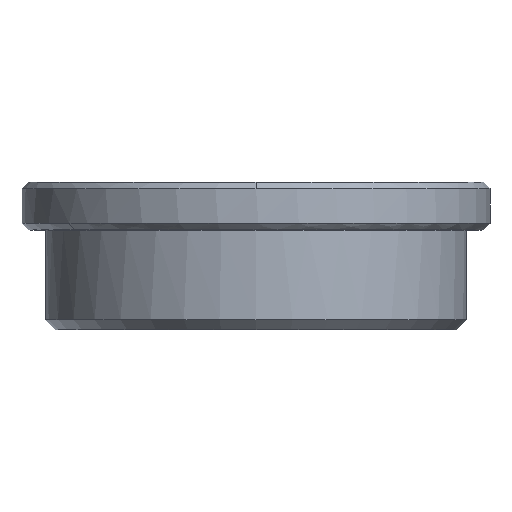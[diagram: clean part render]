
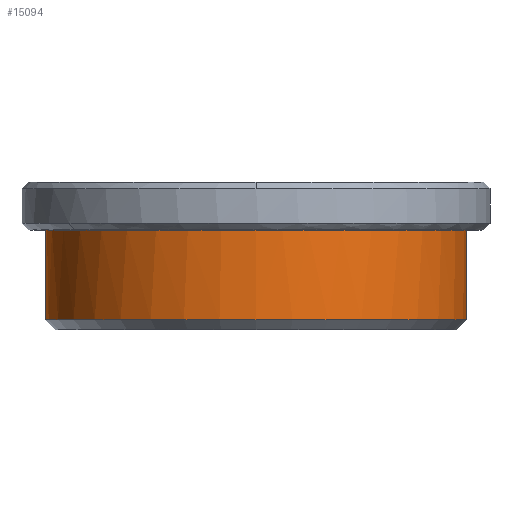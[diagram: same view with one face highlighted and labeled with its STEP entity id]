
A CAD part, front view. The second image highlights one B-rep face of the part: STEP entity #15094.
In plain terms, the highlighted cylindrical face has radius 31.5 mm (diameter 63 mm), a partial arc.
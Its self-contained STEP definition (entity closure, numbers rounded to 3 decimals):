
#114 = CARTESIAN_POINT ( 'NONE',  ( 31.5, 0., 0.119 ) ) ;
#504 = CARTESIAN_POINT ( 'NONE',  ( 23.008, -21.539, 0.119 ) ) ;
#593 = CARTESIAN_POINT ( 'NONE',  ( 29.497, -11.101, 0.119 ) ) ;
#605 = ORIENTED_EDGE ( 'NONE', *, *, #3412, .T. ) ;
#887 = CARTESIAN_POINT ( 'NONE',  ( 6.681, -30.788, 0.119 ) ) ;
#912 = LINE ( 'NONE', #3564, #10474 ) ;
#1791 = CARTESIAN_POINT ( 'NONE',  ( -29.138, -12.099, 0.119 ) ) ;
#1815 = CARTESIAN_POINT ( 'NONE',  ( 20.83, -23.718, 0.119 ) ) ;
#2077 = CARTESIAN_POINT ( 'NONE',  ( -25.022, -19.246, 0.119 ) ) ;
#2103 = CARTESIAN_POINT ( 'NONE',  ( 13.955, -28.259, 0.119 ) ) ;
#2264 = CARTESIAN_POINT ( 'NONE',  ( -31.5, -2.08, 0.119 ) ) ;
#2742 = DIRECTION ( 'NONE',  ( 0., 0., -1. ) ) ;
#2896 = CARTESIAN_POINT ( 'NONE',  ( 0.001, -31.5, 0.119 ) ) ;
#3149 = CARTESIAN_POINT ( 'NONE',  ( 29.849, -10.118, 0.119 ) ) ;
#3345 = CARTESIAN_POINT ( 'NONE',  ( 31.5, 0., 0.119 ) ) ;
#3412 = EDGE_CURVE ( 'NONE', #17166, #14815, #15897, .T. ) ;
#3414 = CARTESIAN_POINT ( 'NONE',  ( -2.079, -31.5, 0.119 ) ) ;
#3540 = CARTESIAN_POINT ( 'NONE',  ( 2.081, -31.5, 0.119 ) ) ;
#3551 = EDGE_CURVE ( 'NONE', #9022, #17166, #7035, .T. ) ;
#3564 = CARTESIAN_POINT ( 'NONE',  ( 31.5, 0., 1.369 ) ) ;
#3567 = CARTESIAN_POINT ( 'NONE',  ( 0., 0., 1.369 ) ) ;
#3606 = CARTESIAN_POINT ( 'NONE',  ( -13.96, -28.313, 0.119 ) ) ;
#3701 = CARTESIAN_POINT ( 'NONE',  ( -27.53, -15.318, 0.119 ) ) ;
#3799 = CARTESIAN_POINT ( 'NONE',  ( -30.42, -8.193, 0.119 ) ) ;
#3912 = AXIS2_PLACEMENT_3D ( 'NONE', #3567, #17918, #8224 ) ;
#4581 = CARTESIAN_POINT ( 'NONE',  ( 23.7, -20.775, 0.119 ) ) ;
#4737 = B_SPLINE_CURVE_WITH_KNOTS ( 'NONE', 3,
 ( #6278, #3414, #10806, #7603, #12041, #10708, #6464, #3606, #16463, #4752, #11943, #10904, #4840, #9410, #7979, #6562, #2077, #16660, #10615, #9313, #3701, #12229, #1791, #10524, #16370, #3799, #16758, #14279, #11544, #2264, #12968 ),
 .UNSPECIFIED., .F., .F.,
 ( 4, 2, 2, 2, 2, 2, 2, 2, 2, 2, 2, 1, 2, 2, 2, 4 ),
 ( 0.098, 0.105, 0.108, 0.111, 0.117, 0.118, 0.12, 0.123, 0.129, 0.131, 0.132, 0.135, 0.138, 0.14, 0.141, 0.148 ),
 .UNSPECIFIED. ) ;
#4752 = CARTESIAN_POINT ( 'NONE',  ( -17.908, -25.919, 0.119 ) ) ;
#4840 = CARTESIAN_POINT ( 'NONE',  ( -19.571, -24.688, 0.119 ) ) ;
#5417 = CARTESIAN_POINT ( 'NONE',  ( -31.5, 0., 0.119 ) ) ;
#5516 = EDGE_LOOP ( 'NONE', ( #14300, #18645, #15277, #6939, #605 ) ) ;
#5829 = B_SPLINE_CURVE_WITH_KNOTS ( 'NONE', 3,
 ( #3345, #13583, #13300, #17530, #14887, #3149, #593, #9053, #7442, #7721, #13488, #13213, #14798, #4581, #504, #1815, #16115, #8954, #7628, #13388, #6303, #2103, #12260, #15361, #16782, #9432, #8287, #887, #9525, #3540, #10927 ),
 .UNSPECIFIED., .F., .F.,
 ( 4, 2, 2, 2, 2, 2, 2, 2, 2, 2, 2, 1, 2, 2, 2, 4 ),
 ( 0.049, 0.055, 0.058, 0.062, 0.068, 0.069, 0.071, 0.074, 0.08, 0.081, 0.083, 0.086, 0.089, 0.091, 0.092, 0.098 ),
 .UNSPECIFIED. ) ;
#6278 = CARTESIAN_POINT ( 'NONE',  ( 0.001, -31.5, 0.119 ) ) ;
#6303 = CARTESIAN_POINT ( 'NONE',  ( 15.318, -27.529, 0.119 ) ) ;
#6422 = CYLINDRICAL_SURFACE ( 'NONE', #3912, 31.5 ) ;
#6464 = CARTESIAN_POINT ( 'NONE',  ( -11.101, -29.497, 0.119 ) ) ;
#6562 = CARTESIAN_POINT ( 'NONE',  ( -23.718, -20.83, 0.119 ) ) ;
#6854 = CARTESIAN_POINT ( 'NONE',  ( -31.5, 0., 1.369 ) ) ;
#6939 = ORIENTED_EDGE ( 'NONE', *, *, #3551, .T. ) ;
#7035 = LINE ( 'NONE', #6854, #14115 ) ;
#7442 = CARTESIAN_POINT ( 'NONE',  ( 27.346, -15.769, 0.119 ) ) ;
#7603 = CARTESIAN_POINT ( 'NONE',  ( -7.142, -30.697, 0.119 ) ) ;
#7628 = CARTESIAN_POINT ( 'NONE',  ( 16.657, -26.741, 0.119 ) ) ;
#7721 = CARTESIAN_POINT ( 'NONE',  ( 25.919, -17.908, 0.119 ) ) ;
#7887 = DIRECTION ( 'NONE',  ( 0., 0., 1. ) ) ;
#7979 = CARTESIAN_POINT ( 'NONE',  ( -21.539, -23.008, 0.119 ) ) ;
#8224 = DIRECTION ( 'NONE',  ( -1., 0., 0. ) ) ;
#8287 = CARTESIAN_POINT ( 'NONE',  ( 7.189, -30.673, 0.119 ) ) ;
#8402 = VERTEX_POINT ( 'NONE', #2896 ) ;
#8689 = VERTEX_POINT ( 'NONE', #114 ) ;
#8891 = CARTESIAN_POINT ( 'NONE',  ( 31.5, 0., -13.3 ) ) ;
#8954 = CARTESIAN_POINT ( 'NONE',  ( 17.096, -26.462, 0.119 ) ) ;
#9022 = VERTEX_POINT ( 'NONE', #5417 ) ;
#9053 = CARTESIAN_POINT ( 'NONE',  ( 28.313, -13.961, 0.119 ) ) ;
#9313 = CARTESIAN_POINT ( 'NONE',  ( -27.275, -15.767, 0.119 ) ) ;
#9364 = DIRECTION ( 'NONE',  ( 0., 0., -1. ) ) ;
#9410 = CARTESIAN_POINT ( 'NONE',  ( -20.775, -23.7, 0.119 ) ) ;
#9432 = CARTESIAN_POINT ( 'NONE',  ( 8.194, -30.42, 0.119 ) ) ;
#9503 = CARTESIAN_POINT ( 'NONE',  ( 0., 0., -13.3 ) ) ;
#9525 = CARTESIAN_POINT ( 'NONE',  ( 4.138, -31.296, 0.119 ) ) ;
#10474 = VECTOR ( 'NONE', #9364, 1000. ) ;
#10524 = CARTESIAN_POINT ( 'NONE',  ( -29.832, -10.168, 0.119 ) ) ;
#10615 = CARTESIAN_POINT ( 'NONE',  ( -26.741, -16.656, 0.119 ) ) ;
#10708 = CARTESIAN_POINT ( 'NONE',  ( -10.117, -29.849, 0.119 ) ) ;
#10806 = CARTESIAN_POINT ( 'NONE',  ( -4.124, -31.296, 0.119 ) ) ;
#10904 = CARTESIAN_POINT ( 'NONE',  ( -19.161, -25.007, 0.119 ) ) ;
#10927 = CARTESIAN_POINT ( 'NONE',  ( 0.001, -31.5, 0.119 ) ) ;
#10954 = FACE_OUTER_BOUND ( 'NONE', #5516, .T. ) ;
#11544 = CARTESIAN_POINT ( 'NONE',  ( -31.296, -4.137, 0.119 ) ) ;
#11943 = CARTESIAN_POINT ( 'NONE',  ( -18.33, -25.623, 0.119 ) ) ;
#12041 = CARTESIAN_POINT ( 'NONE',  ( -8.14, -30.448, 0.119 ) ) ;
#12193 = EDGE_CURVE ( 'NONE', #8689, #8402, #5829, .T. ) ;
#12229 = CARTESIAN_POINT ( 'NONE',  ( -28.259, -13.955, 0.119 ) ) ;
#12260 = CARTESIAN_POINT ( 'NONE',  ( 12.1, -29.137, 0.119 ) ) ;
#12968 = CARTESIAN_POINT ( 'NONE',  ( -31.5, 0., 0.119 ) ) ;
#13027 = CARTESIAN_POINT ( 'NONE',  ( -31.5, 0., -13.3 ) ) ;
#13213 = CARTESIAN_POINT ( 'NONE',  ( 25.007, -19.161, 0.119 ) ) ;
#13300 = CARTESIAN_POINT ( 'NONE',  ( 31.296, -4.125, 0.119 ) ) ;
#13388 = CARTESIAN_POINT ( 'NONE',  ( 15.768, -27.275, 0.119 ) ) ;
#13464 = DIRECTION ( 'NONE',  ( -1., 0., 0. ) ) ;
#13488 = CARTESIAN_POINT ( 'NONE',  ( 25.623, -18.33, 0.119 ) ) ;
#13583 = CARTESIAN_POINT ( 'NONE',  ( 31.5, -2.08, 0.119 ) ) ;
#14115 = VECTOR ( 'NONE', #2742, 1000. ) ;
#14279 = CARTESIAN_POINT ( 'NONE',  ( -30.788, -6.68, 0.119 ) ) ;
#14300 = ORIENTED_EDGE ( 'NONE', *, *, #17955, .F. ) ;
#14798 = CARTESIAN_POINT ( 'NONE',  ( 24.688, -19.572, 0.119 ) ) ;
#14815 = VERTEX_POINT ( 'NONE', #8891 ) ;
#14887 = CARTESIAN_POINT ( 'NONE',  ( 30.448, -8.14, 0.119 ) ) ;
#15094 = ADVANCED_FACE ( 'NONE', ( #10954 ), #6422, .T. ) ;
#15277 = ORIENTED_EDGE ( 'NONE', *, *, #17715, .T. ) ;
#15361 = CARTESIAN_POINT ( 'NONE',  ( 10.168, -29.831, 0.119 ) ) ;
#15897 = CIRCLE ( 'NONE', #18292, 31.5 ) ;
#16115 = CARTESIAN_POINT ( 'NONE',  ( 19.246, -25.022, 0.119 ) ) ;
#16370 = CARTESIAN_POINT ( 'NONE',  ( -30.282, -8.69, 0.119 ) ) ;
#16463 = CARTESIAN_POINT ( 'NONE',  ( -15.769, -27.346, 0.119 ) ) ;
#16660 = CARTESIAN_POINT ( 'NONE',  ( -26.462, -17.096, 0.119 ) ) ;
#16758 = CARTESIAN_POINT ( 'NONE',  ( -30.673, -7.189, 0.119 ) ) ;
#16782 = CARTESIAN_POINT ( 'NONE',  ( 8.691, -30.282, 0.119 ) ) ;
#17166 = VERTEX_POINT ( 'NONE', #13027 ) ;
#17530 = CARTESIAN_POINT ( 'NONE',  ( 30.697, -7.143, 0.119 ) ) ;
#17715 = EDGE_CURVE ( 'NONE', #8402, #9022, #4737, .T. ) ;
#17918 = DIRECTION ( 'NONE',  ( 0., 0., -1. ) ) ;
#17955 = EDGE_CURVE ( 'NONE', #8689, #14815, #912, .T. ) ;
#18292 = AXIS2_PLACEMENT_3D ( 'NONE', #9503, #7887, #13464 ) ;
#18645 = ORIENTED_EDGE ( 'NONE', *, *, #12193, .T. ) ;
